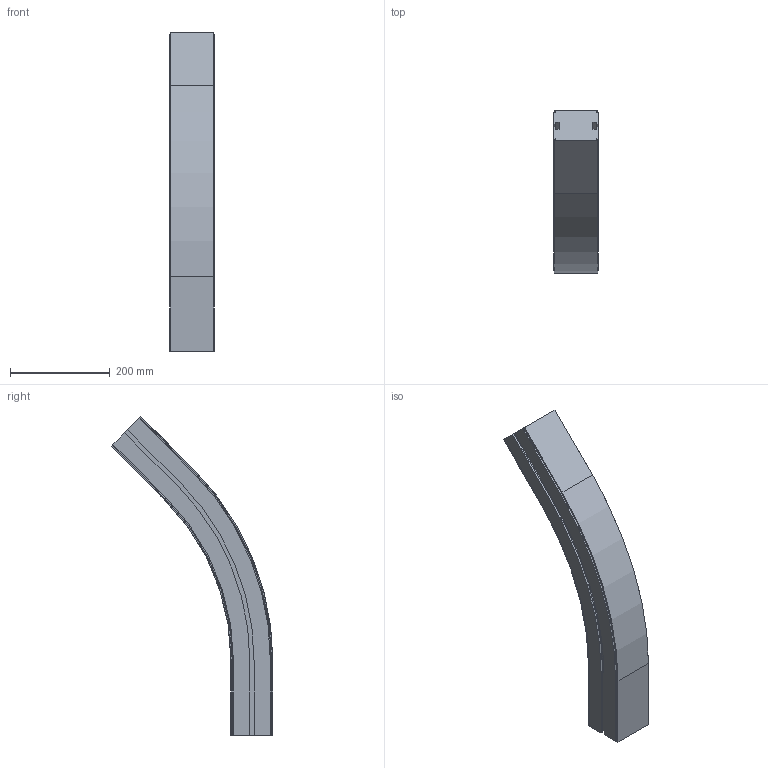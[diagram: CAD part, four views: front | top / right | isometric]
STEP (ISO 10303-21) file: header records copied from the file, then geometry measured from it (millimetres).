
FILE_DESCRIPTION (( 'STEP AP214' ), '1' );
FILE_NAME ('927763 CS090SL Verticale bochtsectie R500 45°.STEP', '2014-03-20T15:23:54', ( 'Beheerder' ), ( '' ), 'SwSTEP 2.0', 'SolidWorks 2012', '' );
FILE_SCHEMA (( 'AUTOMOTIVE_DESIGN' ));
Length unit declared in the file: millimetre
Products named in the file (1): 927763 CS090SL Verticale bochtsectie R500 45°
Bounding box: 90 x 324.21 x 639.32 mm (x, y, z)
Volume: 4956005.6 mm3; surface area: 328766.8 mm2
Topology: 1 solids, 1 shells, 98 faces, 272 edges, 176 vertices
Faces by surface type: plane 72, cylinder 18, cone 8
Entity records: 3126 total; most frequent: CARTESIAN_POINT 547, ORIENTED_EDGE 544, DIRECTION 514, EDGE_CURVE 272, LINE 228, VECTOR 228, VERTEX_POINT 176, AXIS2_PLACEMENT_3D 143
